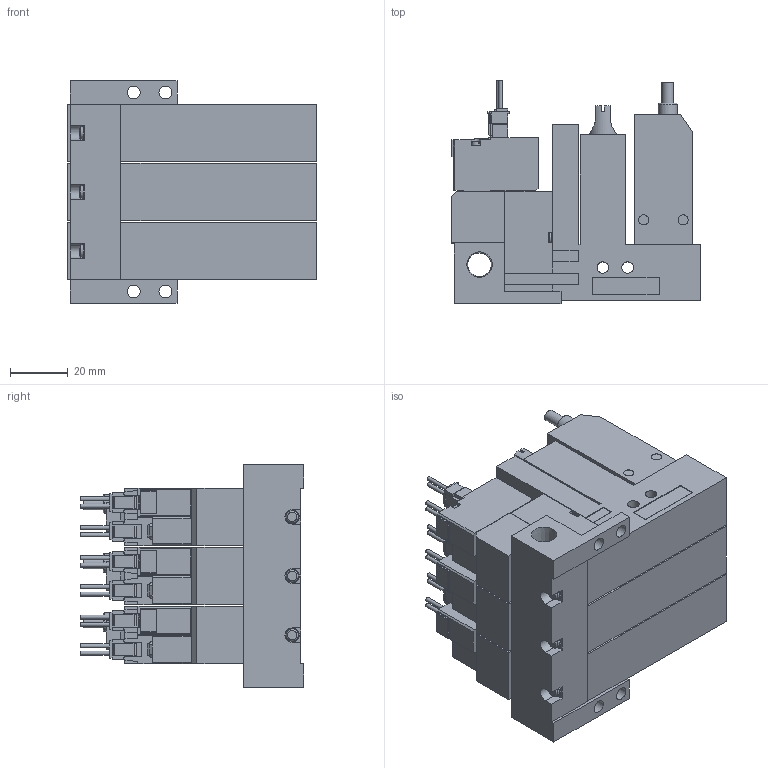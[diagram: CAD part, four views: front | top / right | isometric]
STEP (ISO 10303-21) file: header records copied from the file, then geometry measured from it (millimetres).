
FILE_DESCRIPTION(('STEP AP203'),'1');
FILE_NAME('ABS_ABPL5ALR303.stp','2025-02-18T07:27:10',(' '),(' '),'Spatial InterOp 3D',' ',' ');
FILE_SCHEMA(('CONFIG_CONTROL_DESIGN'));
Length unit declared in the file: millimetre
Products named in the file (5): BMC22M※※※※ABS_ABPL5ALR303; Solenoid valve A; Pressure sensor ABSL; Unit L; Base MR30R
Assembly tree (10 placements, depth 2):
  BMC22M※※※※ABS_ABPL5ALR303
    Solenoid valve A  x3
    Pressure sensor ABSL  x3
    Unit L  x3
    Base MR30R
Bounding box: 86.6 x 77.45 x 77 mm (x, y, z)
Volume: 272992.1 mm3; surface area: 76333.1 mm2
Topology: 10 solids, 10 shells, 1146 faces, 3071 edges, 2023 vertices
Faces by surface type: plane 968, cylinder 143, cone 23, torus 12
Full cylindrical faces by diameter (mm): 1.4 x12, 2.5 x3, 3 x12, 3.5 x18, 3.6 x3, 4 x9, 4.134 x3, 4.5 x4, 5.2 x3, 6 x3, 6.5 x3, 6.6 x3, 8.279 x1
Entity records: 13253 total; most frequent: CARTESIAN_POINT 2461, ORIENTED_EDGE 2118, DIRECTION 2104, EDGE_CURVE 1059, LINE 882, VECTOR 882, VERTEX_POINT 733, AXIS2_PLACEMENT_3D 611
